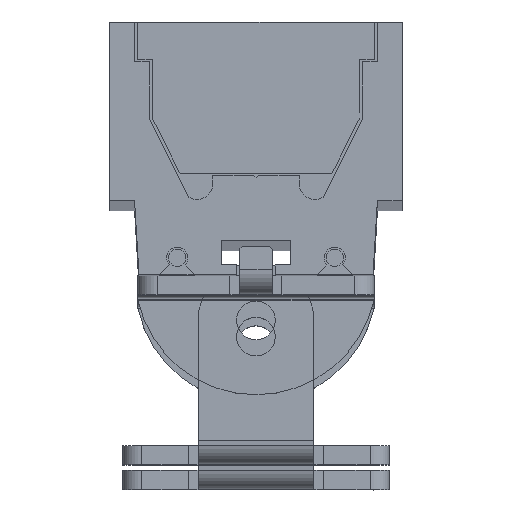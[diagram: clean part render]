
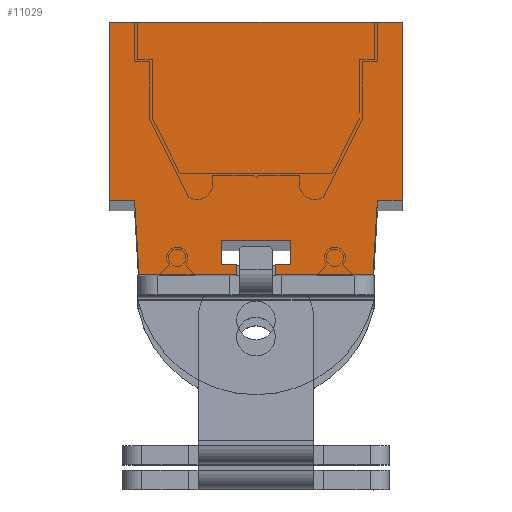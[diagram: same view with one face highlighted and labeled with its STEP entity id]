
A CAD part, top view. The second image highlights one B-rep face of the part: STEP entity #11029.
In plain terms, the highlighted planar face has unit normal (0, 0, 1).
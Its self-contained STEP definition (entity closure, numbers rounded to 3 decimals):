
#82 = CARTESIAN_POINT ( 'NONE',  ( -17.247, -26.221, 2. ) ) ;
#104 = VERTEX_POINT ( 'NONE', #9944 ) ;
#634 = LINE ( 'NONE', #82, #3664 ) ;
#718 = ORIENTED_EDGE ( 'NONE', *, *, #9557, .T. ) ;
#838 = VECTOR ( 'NONE', #17237, 1000. ) ;
#957 = ORIENTED_EDGE ( 'NONE', *, *, #13537, .T. ) ;
#1020 = AXIS2_PLACEMENT_3D ( 'NONE', #16127, #2983, #4247 ) ;
#1137 = VECTOR ( 'NONE', #12047, 1000. ) ;
#1400 = LINE ( 'NONE', #7993, #4439 ) ;
#1457 = VERTEX_POINT ( 'NONE', #18663 ) ;
#1470 = CARTESIAN_POINT ( 'NONE',  ( -13.169, -25.19, 2. ) ) ;
#1538 = ORIENTED_EDGE ( 'NONE', *, *, #17442, .T. ) ;
#1610 = LINE ( 'NONE', #1470, #1137 ) ;
#1755 = DIRECTION ( 'NONE',  ( -1., 0., 0. ) ) ;
#1807 = DIRECTION ( 'NONE',  ( 0., -1., 0. ) ) ;
#2310 = LINE ( 'NONE', #13926, #10675 ) ;
#2411 = DIRECTION ( 'NONE',  ( 0., 1., 0. ) ) ;
#2598 = EDGE_CURVE ( 'NONE', #6329, #10259, #12816, .T. ) ;
#2657 = ORIENTED_EDGE ( 'NONE', *, *, #5468, .F. ) ;
#2904 = DIRECTION ( 'NONE',  ( 1., 0., 0. ) ) ;
#2983 = DIRECTION ( 'NONE',  ( 0., 0., -1. ) ) ;
#3176 = ORIENTED_EDGE ( 'NONE', *, *, #6961, .F. ) ;
#3260 = ORIENTED_EDGE ( 'NONE', *, *, #2598, .T. ) ;
#3405 = EDGE_LOOP ( 'NONE', ( #12845, #9443, #19126, #957, #12552, #3260, #1538, #17167, #718, #16232, #13139, #6508, #12866, #3176, #9974, #2657 ) ) ;
#3421 = DIRECTION ( 'NONE',  ( 1., 0., 0. ) ) ;
#3565 = VERTEX_POINT ( 'NONE', #3691 ) ;
#3664 = VECTOR ( 'NONE', #16389, 1000. ) ;
#3691 = CARTESIAN_POINT ( 'NONE',  ( -30.36, 0., 2. ) ) ;
#3867 = VERTEX_POINT ( 'NONE', #13747 ) ;
#4025 = CARTESIAN_POINT ( 'NONE',  ( -2.588, -18.516, 2. ) ) ;
#4247 = DIRECTION ( 'NONE',  ( -1., 0., 0. ) ) ;
#4358 = CARTESIAN_POINT ( 'NONE',  ( -3.045, -26.221, 2. ) ) ;
#4439 = VECTOR ( 'NONE', #18246, 1000. ) ;
#4520 = VERTEX_POINT ( 'NONE', #5838 ) ;
#4623 = CARTESIAN_POINT ( 'NONE',  ( -3.104, -26.221, 2. ) ) ;
#4713 = EDGE_CURVE ( 'NONE', #3565, #17904, #11358, .T. ) ;
#4841 = VECTOR ( 'NONE', #7804, 1000. ) ;
#4882 = CARTESIAN_POINT ( 'NONE',  ( -27.317, -26.221, 2. ) ) ;
#5468 = EDGE_CURVE ( 'NONE', #1457, #104, #17172, .T. ) ;
#5838 = CARTESIAN_POINT ( 'NONE',  ( -17.247, -26.221, 2. ) ) ;
#6329 = VERTEX_POINT ( 'NONE', #13619 ) ;
#6390 = EDGE_CURVE ( 'NONE', #12241, #4520, #9042, .T. ) ;
#6508 = ORIENTED_EDGE ( 'NONE', *, *, #12573, .F. ) ;
#6805 = VECTOR ( 'NONE', #14488, 1000. ) ;
#6828 = CARTESIAN_POINT ( 'NONE',  ( -17.247, -25.19, 2. ) ) ;
#6889 = CARTESIAN_POINT ( 'NONE',  ( 0., -18.52, 2. ) ) ;
#6961 = EDGE_CURVE ( 'NONE', #3867, #18772, #17564, .T. ) ;
#7008 = CARTESIAN_POINT ( 'NONE',  ( -2.589, -18.52, 2. ) ) ;
#7397 = VECTOR ( 'NONE', #1807, 1000. ) ;
#7804 = DIRECTION ( 'NONE',  ( 0., -1., 0. ) ) ;
#7834 = VERTEX_POINT ( 'NONE', #7008 ) ;
#7943 = CARTESIAN_POINT ( 'NONE',  ( -11.614, -22.658, 2. ) ) ;
#7993 = CARTESIAN_POINT ( 'NONE',  ( -27.774, -18.516, 2. ) ) ;
#8481 = VECTOR ( 'NONE', #2904, 1000. ) ;
#8660 = CARTESIAN_POINT ( 'NONE',  ( -17.247, -25.19, 2. ) ) ;
#8670 = FACE_OUTER_BOUND ( 'NONE', #3405, .T. ) ;
#9010 = EDGE_CURVE ( 'NONE', #7834, #6329, #10588, .T. ) ;
#9042 = LINE ( 'NONE', #4623, #15304 ) ;
#9205 = CARTESIAN_POINT ( 'NONE',  ( -30.36, 0., 2. ) ) ;
#9301 = VERTEX_POINT ( 'NONE', #17863 ) ;
#9443 = ORIENTED_EDGE ( 'NONE', *, *, #11592, .F. ) ;
#9557 = EDGE_CURVE ( 'NONE', #17904, #16330, #13129, .T. ) ;
#9753 = CARTESIAN_POINT ( 'NONE',  ( 0., 0., 2. ) ) ;
#9865 = EDGE_CURVE ( 'NONE', #11856, #1457, #13351, .T. ) ;
#9944 = CARTESIAN_POINT ( 'NONE',  ( -11.614, -22.658, 2. ) ) ;
#9974 = ORIENTED_EDGE ( 'NONE', *, *, #16724, .F. ) ;
#10013 = CARTESIAN_POINT ( 'NONE',  ( -18.803, -25.19, 2. ) ) ;
#10066 = VECTOR ( 'NONE', #2411, 1000. ) ;
#10259 = VERTEX_POINT ( 'NONE', #9753 ) ;
#10355 = VECTOR ( 'NONE', #17087, 1000. ) ;
#10378 = EDGE_CURVE ( 'NONE', #18772, #11894, #13552, .T. ) ;
#10506 = CARTESIAN_POINT ( 'NONE',  ( -30.36, -18.52, 2. ) ) ;
#10588 = LINE ( 'NONE', #6889, #838 ) ;
#10675 = VECTOR ( 'NONE', #18385, 1000. ) ;
#11029 = ADVANCED_FACE ( 'NONE', ( #8670 ), #13356, .F. ) ;
#11358 = LINE ( 'NONE', #9205, #7397 ) ;
#11592 = EDGE_CURVE ( 'NONE', #9301, #11856, #1610, .T. ) ;
#11787 = CARTESIAN_POINT ( 'NONE',  ( -11.614, -25.19, 2. ) ) ;
#11856 = VERTEX_POINT ( 'NONE', #16976 ) ;
#11894 = VERTEX_POINT ( 'NONE', #6828 ) ;
#11975 = VECTOR ( 'NONE', #13141, 1000. ) ;
#12047 = DIRECTION ( 'NONE',  ( 0., 1., 0. ) ) ;
#12074 = DIRECTION ( 'NONE',  ( 1., 0., 0. ) ) ;
#12241 = VERTEX_POINT ( 'NONE', #4882 ) ;
#12552 = ORIENTED_EDGE ( 'NONE', *, *, #9010, .T. ) ;
#12573 = EDGE_CURVE ( 'NONE', #11894, #4520, #634, .T. ) ;
#12816 = LINE ( 'NONE', #15954, #10066 ) ;
#12845 = ORIENTED_EDGE ( 'NONE', *, *, #9865, .F. ) ;
#12866 = ORIENTED_EDGE ( 'NONE', *, *, #10378, .F. ) ;
#13129 = LINE ( 'NONE', #15554, #10355 ) ;
#13139 = ORIENTED_EDGE ( 'NONE', *, *, #6390, .T. ) ;
#13141 = DIRECTION ( 'NONE',  ( 0.059, 0.998, 0. ) ) ;
#13245 = VECTOR ( 'NONE', #1755, 1000. ) ;
#13351 = LINE ( 'NONE', #11787, #8481 ) ;
#13356 = PLANE ( 'NONE',  #1020 ) ;
#13537 = EDGE_CURVE ( 'NONE', #14723, #7834, #17025, .T. ) ;
#13552 = LINE ( 'NONE', #8660, #6805 ) ;
#13619 = CARTESIAN_POINT ( 'NONE',  ( 0., -18.52, 2. ) ) ;
#13731 = CARTESIAN_POINT ( 'NONE',  ( -3.104, -26.221, 2. ) ) ;
#13747 = CARTESIAN_POINT ( 'NONE',  ( -18.803, -22.658, 2. ) ) ;
#13915 = CARTESIAN_POINT ( 'NONE',  ( -18.803, -25.19, 2. ) ) ;
#13926 = CARTESIAN_POINT ( 'NONE',  ( 0., 0., 2. ) ) ;
#14488 = DIRECTION ( 'NONE',  ( 1., 0., 0. ) ) ;
#14723 = VERTEX_POINT ( 'NONE', #4358 ) ;
#15304 = VECTOR ( 'NONE', #12074, 1000. ) ;
#15531 = VECTOR ( 'NONE', #3421, 1000. ) ;
#15554 = CARTESIAN_POINT ( 'NONE',  ( 0., -18.52, 2. ) ) ;
#15758 = LINE ( 'NONE', #13731, #15531 ) ;
#15954 = CARTESIAN_POINT ( 'NONE',  ( 0., 0., 2. ) ) ;
#16127 = CARTESIAN_POINT ( 'NONE',  ( 0., 0., 2. ) ) ;
#16232 = ORIENTED_EDGE ( 'NONE', *, *, #18601, .T. ) ;
#16330 = VERTEX_POINT ( 'NONE', #16714 ) ;
#16332 = CARTESIAN_POINT ( 'NONE',  ( -18.803, -22.658, 2. ) ) ;
#16389 = DIRECTION ( 'NONE',  ( 0., -1., 0. ) ) ;
#16714 = CARTESIAN_POINT ( 'NONE',  ( -27.773, -18.52, 2. ) ) ;
#16724 = EDGE_CURVE ( 'NONE', #104, #3867, #18085, .T. ) ;
#16976 = CARTESIAN_POINT ( 'NONE',  ( -13.169, -25.19, 2. ) ) ;
#16979 = DIRECTION ( 'NONE',  ( 0., 1., 0. ) ) ;
#17025 = LINE ( 'NONE', #4025, #11975 ) ;
#17087 = DIRECTION ( 'NONE',  ( 1., 0., 0. ) ) ;
#17167 = ORIENTED_EDGE ( 'NONE', *, *, #4713, .T. ) ;
#17172 = LINE ( 'NONE', #7943, #19019 ) ;
#17237 = DIRECTION ( 'NONE',  ( 1., 0., 0. ) ) ;
#17442 = EDGE_CURVE ( 'NONE', #10259, #3565, #2310, .T. ) ;
#17532 = EDGE_CURVE ( 'NONE', #9301, #14723, #15758, .T. ) ;
#17564 = LINE ( 'NONE', #13915, #4841 ) ;
#17863 = CARTESIAN_POINT ( 'NONE',  ( -13.169, -26.221, 2. ) ) ;
#17904 = VERTEX_POINT ( 'NONE', #10506 ) ;
#18085 = LINE ( 'NONE', #16332, #13245 ) ;
#18246 = DIRECTION ( 'NONE',  ( 0.059, -0.998, 0. ) ) ;
#18385 = DIRECTION ( 'NONE',  ( -1., 0., 0. ) ) ;
#18601 = EDGE_CURVE ( 'NONE', #16330, #12241, #1400, .T. ) ;
#18663 = CARTESIAN_POINT ( 'NONE',  ( -11.614, -25.19, 2. ) ) ;
#18772 = VERTEX_POINT ( 'NONE', #10013 ) ;
#19019 = VECTOR ( 'NONE', #16979, 1000. ) ;
#19126 = ORIENTED_EDGE ( 'NONE', *, *, #17532, .T. ) ;
